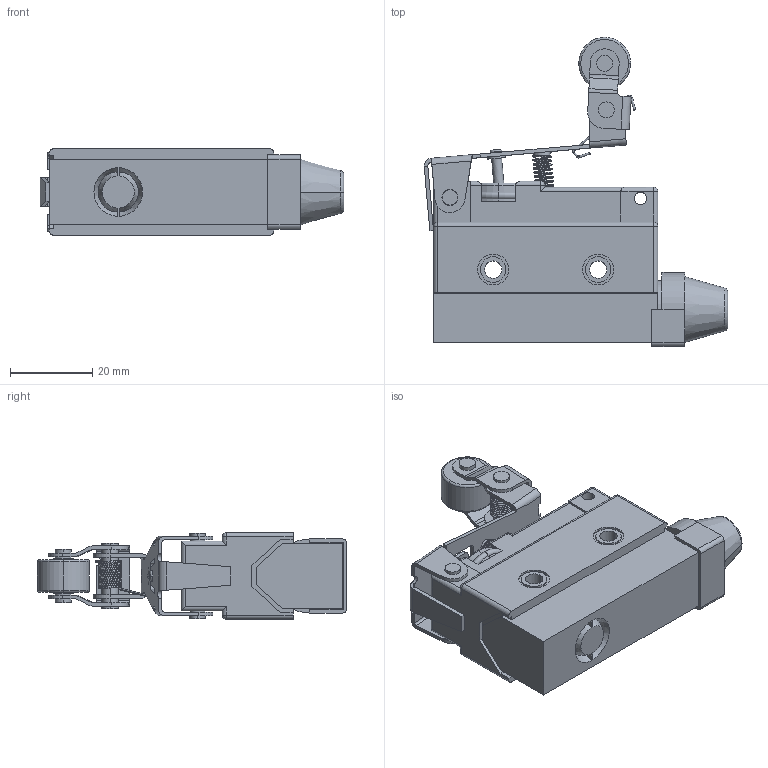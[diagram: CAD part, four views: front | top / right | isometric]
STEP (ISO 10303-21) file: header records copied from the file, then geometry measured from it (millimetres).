
FILE_DESCRIPTION (( 'STEP AP203' ), '1' );
FILE_NAME ('FM7144.STEP', '2018-06-20T16:11:00', ( '' ), ( '' ), 'SwSTEP 2.0', 'SolidWorks 2012', '' );
FILE_SCHEMA (( 'CONFIG_CONTROL_DESIGN' ));
Length unit declared in the file: millimetre
Products named in the file (1): FM7144
Bounding box: 73.76 x 75.11 x 21 mm (x, y, z)
Volume: 42733.1 mm3; surface area: 14961 mm2
Topology: 3 solids, 3 shells, 413 faces, 1021 edges, 640 vertices
Faces by surface type: plane 175, cylinder 166, torus 32, bspline 20, cone 12, sphere 8
Entity records: 22059 total; most frequent: CARTESIAN_POINT 12089, DIRECTION 2144, ORIENTED_EDGE 2018, EDGE_CURVE 1009, AXIS2_PLACEMENT_3D 799, VERTEX_POINT 640, LINE 546, VECTOR 546
